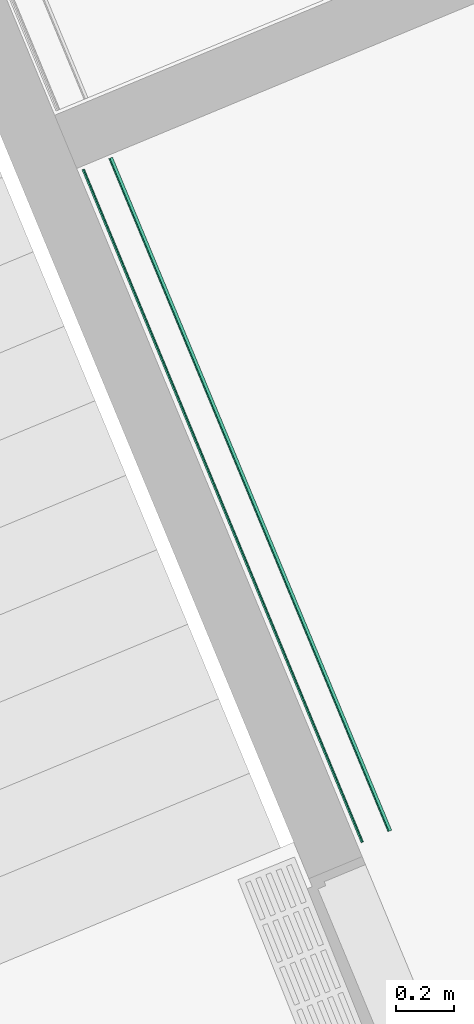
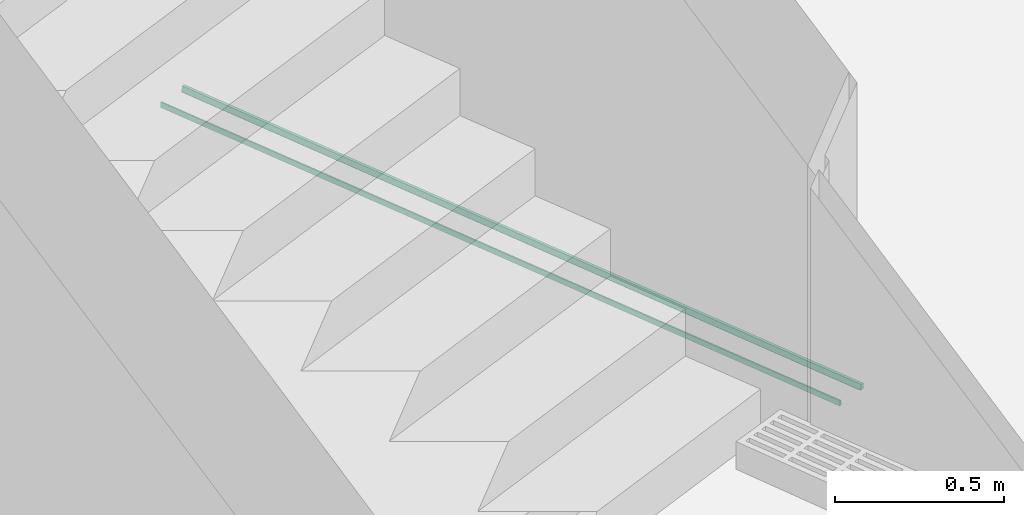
# One storey, part 15 of 20: 1 flow terminal.
"""IFC2X3 building model written with IfcOpenShell, lengths in metres."""

import ifcopenshell
import ifcopenshell.guid

model = None  # the IFC model being written
_history = None  # IfcOwnerHistory: only IFC2X3 demands one
_inside = {}  # id of a spatial element -> (the spatial element, [elements in it])
_under = {}  # id of a project, library or spatial element -> (it, [spatial elements below it])
_declared = {}  # id of a project -> (the project, [libraries it declares])
_typed = {}  # id of a type object -> (the type object, [elements of that type])
_made_of = {}  # id of a material, layer set ... -> (it, [elements and type objects made of it])


def new_model(schema):
    """Start an empty IFC model of exactly this schema.

    Asked for "IFC4X3", IfcOpenShell would pick the latest addendum, in which some entities
    have other attributes; the version numbers below select the first issue.
    IFC2X3 requires an IfcOwnerHistory on every rooted entity: one is made here for all.
    """
    global model, _history
    if schema == "IFC4X3":
        model = ifcopenshell.file(schema_version=(4, 3, 0, 0))
    else:
        model = ifcopenshell.file(schema=schema)
    _inside.clear()
    _under.clear()
    _declared.clear()
    _typed.clear()
    _made_of.clear()
    _history = None
    if model.schema == "IFC2X3":
        org = make("IfcOrganization", Name="unknown")
        user = make(
            "IfcPersonAndOrganization",
            ThePerson=make("IfcPerson", FamilyName="unknown"),
            TheOrganization=org,
        )
        app = make(
            "IfcApplication",
            ApplicationDeveloper=org,
            Version="unknown",
            ApplicationFullName="unknown",
            ApplicationIdentifier="unknown",
        )
        _history = make(
            "IfcOwnerHistory",
            OwningUser=user,
            OwningApplication=app,
            ChangeAction="ADDED",
            CreationDate=0,
        )
    return model


def make(cls, **values):
    """One entity of the class cls with the attributes given. An attribute that is None is left unset."""
    return model.create_entity(
        cls, **{name: value for name, value in values.items() if value is not None}
    )


def entity(cls, *values):
    """Any entity or typed value of the class cls, its attributes in the order of the schema. None: left unset."""
    e = model.create_entity(cls)
    for i, value in enumerate(values):
        if value is not None:
            e[i] = value
    return e


def rooted(cls, **values):
    """An entity with a GlobalId (a new one), such as an element, a storey or a relation."""
    return make(cls, GlobalId=ifcopenshell.guid.new(), OwnerHistory=_history, **values)


def si_unit(unit_type, name, prefix=None):
    """IfcSIUnit, for example si_unit("LENGTHUNIT", "METRE", prefix="MILLI")."""
    return make("IfcSIUnit", UnitType=unit_type, Prefix=prefix, Name=name)


def converted_unit(unit_type, name, factor, base, dimensions=None, offset=None):
    """IfcConversionBasedUnit, such as the inch: factor (a typed value) times the base unit."""
    return make(
        "IfcConversionBasedUnit"
        if offset is None
        else "IfcConversionBasedUnitWithOffset",
        ConversionOffset=offset,
        Dimensions=None
        if dimensions is None
        else entity("IfcDimensionalExponents", *dimensions),
        UnitType=unit_type,
        Name=name,
        ConversionFactor=make(
            "IfcMeasureWithUnit", ValueComponent=factor, UnitComponent=base
        ),
    )


def derived_unit(unit_type, elements):
    """IfcDerivedUnit: a product of units, each with its exponent."""
    return make(
        "IfcDerivedUnit",
        Elements=[
            make("IfcDerivedUnitElement", Unit=unit, Exponent=power)
            for unit, power in elements
        ],
        UnitType=unit_type,
    )


def money_unit(currency):
    """IfcMonetaryUnit."""
    return make("IfcMonetaryUnit", Currency=currency)


def assignment(units):
    """IfcUnitAssignment: the units of a project."""
    return None if units is None else make("IfcUnitAssignment", Units=units)


def point(xyz):
    """IfcCartesianPoint."""
    return None if xyz is None else make("IfcCartesianPoint", Coordinates=xyz)


def direction(xyz):
    """IfcDirection."""
    return None if xyz is None else make("IfcDirection", DirectionRatios=xyz)


def frame(location, z_axis=None, x_axis=None):
    """IfcAxis2Placement3D, a coordinate frame: its origin and axes. An axis left out is left unset."""
    return make(
        "IfcAxis2Placement3D",
        Location=point(location),
        Axis=direction(z_axis),
        RefDirection=direction(x_axis),
    )


def origin_with_axes():
    """The frame at (0, 0, 0) with the z axis (0, 0, 1) and the x axis (1, 0, 0) written out."""
    return frame((0.0, 0.0, 0.0), z_axis=(0.0, 0.0, 1.0), x_axis=(1.0, 0.0, 0.0))


def place(relative_to, where):
    """IfcLocalPlacement: puts the frame where relative to a parent placement (None: the world)."""
    return make(
        "IfcLocalPlacement", PlacementRelTo=relative_to, RelativePlacement=where
    )


def context(
    kind, dimensions, precision=None, world=None, true_north=None, identifier=None
):
    """IfcGeometricRepresentationContext, for example the 3D "Model" context."""
    return make(
        "IfcGeometricRepresentationContext",
        ContextIdentifier=identifier,
        ContextType=kind,
        CoordinateSpaceDimension=dimensions,
        Precision=precision,
        WorldCoordinateSystem=world,
        TrueNorth=true_north,
    )


def subcontext(parent, identifier, kind, view, scale=None):
    """IfcGeometricRepresentationSubContext, for example "Body" below "Model"."""
    return make(
        "IfcGeometricRepresentationSubContext",
        ContextIdentifier=identifier,
        ContextType=kind,
        ParentContext=parent,
        TargetScale=scale,
        TargetView=view,
    )


def project(units=None, contexts=None):
    """IfcProject with its units and contexts."""
    return rooted(
        "IfcProject",
        Name="project",
        RepresentationContexts=contexts,
        UnitsInContext=assignment(units),
    )


def spatial(cls, under=None, at=None, **own):
    """A site, building, storey or space (cls), placed at a placement, below another one or the project."""
    s = rooted(cls, ObjectPlacement=at, **own)
    if under is not None:
        _under.setdefault(under.id(), (under, []))[1].append(s)
    return s


def faces_of(points, faces, orient=None, outer=None):
    """IfcFace entities. A face is a list of loops; a loop is a list of indices into points, from 0.

    orient and outer hold one flag for each loop. By default every Orientation is true, the
    first loop of a face is its IfcFaceOuterBound and the others are IfcFaceBound.
    """
    made = []
    for i, loops in enumerate(faces):
        bounds = []
        for j, loop in enumerate(loops):
            is_outer = j == 0 if outer is None else outer[i][j]
            bounds.append(
                make(
                    "IfcFaceOuterBound" if is_outer else "IfcFaceBound",
                    Bound=make("IfcPolyLoop", Polygon=[points[k] for k in loop]),
                    Orientation=True if orient is None else orient[i][j],
                )
            )
        made.append(make("IfcFace", Bounds=bounds))
    return made


def faceted_brep(points, faces, orient=None, outer=None, voids=None):
    """IfcFacetedBrep: a solid bounded by flat faces; with voids (closed shells), ...WithVoids."""
    shared = [point(p) for p in points]
    hull = make("IfcClosedShell", CfsFaces=faces_of(shared, faces, orient, outer))
    if voids is None:
        return make("IfcFacetedBrep", Outer=hull)
    return make(
        "IfcFacetedBrepWithVoids",
        Outer=hull,
        Voids=[
            make(cls, CfsFaces=faces_of(shared, fs, o, b)) for cls, fs, o, b in voids
        ],
    )


def shape(context_of_items, identifier, shape_type, items):
    """IfcShapeRepresentation: the items that make up one representation, for example the "Body"."""
    return make(
        "IfcShapeRepresentation",
        ContextOfItems=context_of_items,
        RepresentationIdentifier=identifier,
        RepresentationType=shape_type,
        Items=items,
    )


def material(Name=None, Category=None):
    """IfcMaterial."""
    return make("IfcMaterial", Name=Name, Category=Category)


def made_of(thing, what):
    """Note that an element or type object is made of a material, layer set ...; save() writes the relation."""
    if what is not None:
        _made_of.setdefault(what.id(), (what, []))[1].append(thing)
    return thing


def type_object(cls, material=None, **own):
    """A type object (cls), such as IfcWallType, which elements share."""
    return made_of(rooted(cls, **own), material)


def element(
    cls,
    number,
    at=None,
    inside=None,
    cuts=None,
    type_object=None,
    material=None,
    context=None,
    identifier="Body",
    shape_type=None,
    held_by="IfcProductDefinitionShape",
    body=None,
    shapes=None,
    **own,
):
    """One element of the class cls, such as IfcWall. Its Tag is "e" and its number.

    at: its placement. inside: the storey or other place that contains it. cuts: it is an
    opening in that element (IfcRelVoidsElement). A single representation is given by context,
    identifier, shape_type and body (its items); several are given by shapes. held_by: the class
    of the entity that holds the representations. save() writes the other relations.
    """
    e = rooted(cls, Tag="e%d" % number, ObjectPlacement=at, **own)
    if body is not None:
        shapes = [shape(context, identifier, shape_type, body)]
    if shapes is not None:
        e.Representation = make(held_by, Representations=shapes)
    if inside is not None:
        _inside.setdefault(inside.id(), (inside, []))[1].append(e)
    if cuts is not None:
        rooted(
            "IfcRelVoidsElement", RelatingBuildingElement=cuts, RelatedOpeningElement=e
        )
    if type_object is not None:
        _typed.setdefault(type_object.id(), (type_object, []))[1].append(e)
    return made_of(e, material)


def aggregate(whole, parts):
    """IfcRelAggregates: a whole, such as a stair, and the parts it consists of."""
    return rooted("IfcRelAggregates", RelatingObject=whole, RelatedObjects=parts)


def save(model, path):
    """Write the relations noted so far, then the file.

    IfcRelAggregates (storeys below a building ...), IfcRelContainedInSpatialStructure (elements
    in a storey), IfcRelDefinesByType, IfcRelAssociatesMaterial and IfcRelDeclares: one each for
    every whole, place, type object, material and project.
    """
    for whole, parts in _under.values():
        aggregate(whole, parts)
    for where, things in _inside.values():
        rooted(
            "IfcRelContainedInSpatialStructure",
            RelatedElements=things,
            RelatingStructure=where,
        )
    for kind, things in _typed.values():
        rooted("IfcRelDefinesByType", RelatedObjects=things, RelatingType=kind)
    for what, things in _made_of.values():
        rooted("IfcRelAssociatesMaterial", RelatedObjects=things, RelatingMaterial=what)
    for by, libraries in _declared.values():
        rooted("IfcRelDeclares", RelatingContext=by, RelatedDefinitions=libraries)
    model.write(path)


model = new_model("IFC2X3")

# Units and contexts
model_context = context("Model", 3, precision=1e-05, world=origin_with_axes(), true_north=direction((0.0, 1.0)))
body_context = subcontext(model_context, "Body", "Model", "MODEL_VIEW")
ifc_project = project(units=[si_unit("LENGTHUNIT", "METRE"), si_unit("AREAUNIT", "SQUARE_METRE"), si_unit("VOLUMEUNIT", "CUBIC_METRE"), converted_unit("PLANEANGLEUNIT", "DEGREE", entity("IfcPlaneAngleMeasure", 0.0174532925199), si_unit("PLANEANGLEUNIT", "RADIAN"), dimensions=[0, 0, 0, 0, 0, 0, 0]), si_unit("SOLIDANGLEUNIT", "STERADIAN"), money_unit("EUR"), converted_unit("TIMEUNIT", "Year", entity("IfcTimeMeasure", 31556926.0), si_unit("TIMEUNIT", "SECOND"), dimensions=[0, 0, 1, 0, 0, 0, 0]), si_unit("MASSUNIT", "GRAM", prefix="KILO"), si_unit("THERMODYNAMICTEMPERATUREUNIT", "DEGREE_CELSIUS"), si_unit("LUMINOUSINTENSITYUNIT", "LUMEN"), si_unit("ENERGYUNIT", "JOULE", prefix="MEGA"), derived_unit("THERMALCONDUCTANCEUNIT", [(si_unit("POWERUNIT", "WATT"), 1), (si_unit("LENGTHUNIT", "METRE"), -1), (si_unit("THERMODYNAMICTEMPERATUREUNIT", "KELVIN"), -1)]), derived_unit("SPECIFICHEATCAPACITYUNIT", [(si_unit("ENERGYUNIT", "JOULE"), 1), (si_unit("MASSUNIT", "GRAM", prefix="KILO"), -1), (si_unit("THERMODYNAMICTEMPERATUREUNIT", "KELVIN"), -1)]), derived_unit("MASSDENSITYUNIT", [(si_unit("MASSUNIT", "GRAM", prefix="KILO"), 1), (si_unit("VOLUMEUNIT", "CUBIC_METRE"), -1)])], contexts=[model_context])

# Site, building, storey
site_placement = place(None, origin_with_axes())
site = spatial("IfcSite", under=ifc_project, at=site_placement, Name="Site", CompositionType="ELEMENT")
building_placement = place(site_placement, origin_with_axes())
building = spatial("IfcBuilding", under=site, at=building_placement, Name="Bâtiment", CompositionType="ELEMENT")
storey_placement = place(building_placement, frame((0.0, 0.0, -2.9), z_axis=(0.0, 0.0, 1.0), x_axis=(1.0, 0.0, 0.0)))
storey = spatial("IfcBuildingStorey", under=building, at=storey_placement, Name="Sous-sol", CompositionType="ELEMENT", Elevation=-2.9)

# Flow terminal
ifc_material = material(Name="Finition sol - Carrelage")
waste_terminal_type = type_object("IfcWasteTerminalType", Name="Cunette 115 x 60", PredefinedType="GULLYSUMP")
flow_terminal_placement = place(storey_placement, frame((-30.7760590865, -28.5013740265, -0.04), z_axis=(0.0, 0.0, 1.0), x_axis=(0.38311254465, -0.923701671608, 0.0)))
element("IfcFlowTerminal", 1, at=flow_terminal_placement, inside=storey, type_object=waste_terminal_type, material=ifc_material, Name="M_Ext-013", context=body_context, shape_type="Brep", body=[
    faceted_brep([(2.52962823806, 0.00500000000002, 0.06), (2.52962823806, 0.00500000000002, 0.04), (2.52962823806, 0.0143845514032, 0.04), (2.52962823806, 0.0138060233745, 0.0408658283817), (2.52962823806, 0.01, 0.06), (0.0, 0.00500000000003, 0.06), (0.0, 0.00500000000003, 0.04), (0.0, 0.0143845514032, 0.04), (0.0, 0.0138060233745, 0.0408658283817), (0.0, 0.01, 0.06)], [[[0, 1, 2, 3, 4]], [[5, 6, 1, 0]], [[6, 7, 2, 1]], [[3, 2, 7, 8]], [[8, 9, 4, 3]], [[9, 5, 0, 4]], [[8, 7, 6, 5, 9]]]),
    faceted_brep([(2.52962823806, 0.106193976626, 0.0408658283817), (2.52962823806, 0.105615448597, 0.04), (2.52962823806, 0.12, 0.04), (2.52962823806, 0.12, 0.06), (2.52962823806, 0.11, 0.06), (0.0, 0.106193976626, 0.0408658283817), (0.0, 0.105615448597, 0.04), (0.0, 0.12, 0.04), (0.0, 0.12, 0.06), (0.0, 0.11, 0.06)], [[[0, 1, 2, 3, 4]], [[5, 6, 1, 0]], [[6, 7, 2, 1]], [[3, 2, 7, 8]], [[8, 9, 4, 3]], [[9, 5, 0, 4]], [[8, 7, 6, 5, 9]]]),
])

save(model, "model.ifc")
